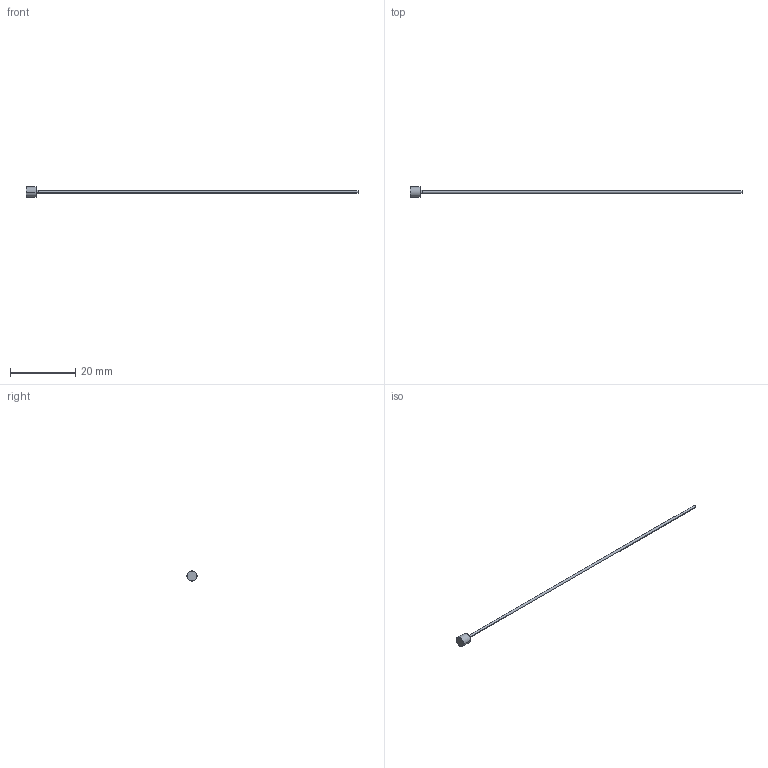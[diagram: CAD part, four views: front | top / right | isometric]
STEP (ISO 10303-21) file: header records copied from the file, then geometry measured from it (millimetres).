
FILE_DESCRIPTION (( 'STEP AP214' ), '1' );
FILE_NAME ('P3-4.STEP', '2020-03-11T12:07:25', ( '' ), ( '' ), 'SwSTEP 2.0', 'SolidWorks 2018', '' );
FILE_SCHEMA (( 'AUTOMOTIVE_DESIGN' ));
Length unit declared in the file: inch
Products named in the file (1): P3-4
Bounding box: 101.6 x 3.17 x 3.17 mm (x, y, z)
Volume: 73.3 mm3; surface area: 288.8 mm2
Topology: 1 solids, 1 shells, 13 faces, 24 edges, 14 vertices
Faces by surface type: cone 4, cylinder 4, plane 3, torus 2
Entity records: 366 total; most frequent: DIRECTION 68, CARTESIAN_POINT 52, ORIENTED_EDGE 48, AXIS2_PLACEMENT_3D 30, EDGE_CURVE 24, CIRCLE 16, EDGE_LOOP 14, VERTEX_POINT 14
